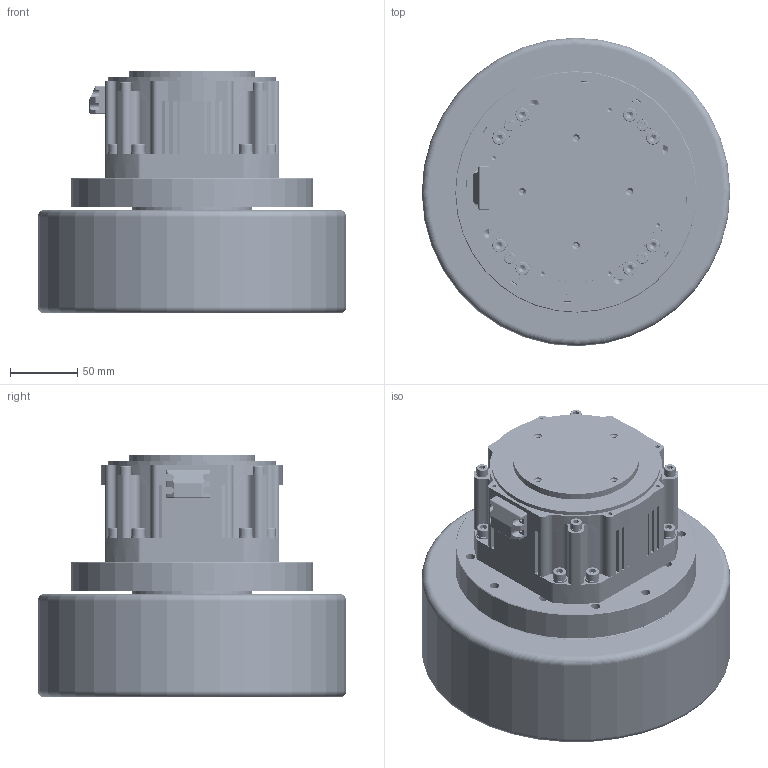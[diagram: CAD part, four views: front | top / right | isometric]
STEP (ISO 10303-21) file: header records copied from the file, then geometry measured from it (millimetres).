
FILE_DESCRIPTION(/* description */ (''),/* implementation_level */ '2;1');
FILE_NAME(/* name */ '',/* time_stamp */ '2024-05-06T22:28:17+08:00',/* author */ ('WSZ'),/* organization */ (''),/* preprocessor_version */ 'ST-DEVELOPER v19.2',/* originating_system */ 'Autodesk Inventor 2023',/* authorisation */ '');
FILE_SCHEMA (('AUTOMOTIVE_DESIGN { 1 0 10303 214 3 1 1 }'));
Length unit declared in the file: millimetre
Products named in the file (12): 1.5KW180mm驱动轮电机; 机壳1000W（鸣志常州1500
W安装脚)240422; 130定子铁芯51mm; 1500kw130后端盖240425（鸣志常州）; Washer GB/T 9074.26-1988 6; AS 1420 - 1973 - M6 x 25; AS 1420 - 1973 - M5 x 10; Washer GB/T 9074.26-1988 5; AGV3D_-0425; 编码器盖板240428; 线夹（鸣志常州）; AEQ-145-L2-15-22-1-H77-W230
Assembly tree (31 placements, depth 2):
  1.5KW180mm驱动轮电机
    机壳1000W（鸣志常州1500
W安装脚)240422
    130定子铁芯51mm
    1500kw130后端盖240425（鸣志常州）
    Washer GB/T 9074.26-1988 6  x8
    AS 1420 - 1973 - M6 x 25  x8
    AS 1420 - 1973 - M5 x 10  x4
    Washer GB/T 9074.26-1988 5  x4
    AGV3D_-0425
    编码器盖板240428
    线夹（鸣志常州）
    AEQ-145-L2-15-22-1-H77-W230
Bounding box: 229.99 x 229.99 x 181 mm (x, y, z)
Volume: 4233933.8 mm3; surface area: 522570.7 mm2
Topology: 116 solids, 116 shells, 4154 faces, 10665 edges, 6928 vertices
Faces by surface type: plane 2274, cylinder 952, cone 676, bspline 158, torus 72, sphere 22
Full cylindrical faces by diameter (mm): 2 x2, 2.459 x4, 2.7 x4, 3.2 x4, 3.242 x5, 5 x12, 5.5 x4, 5.6 x4, 6 x304, 6.5 x8, 6.6 x8, 6.8 x12, 8.5 x4, 10 x16, 11 x8, 22 x2, 30 x1, 39 x1, 47 x2, 55 x1, 62 x1, 77 x1, 82 x1, 85.1 x1, 90 x1, 94 x2, 95 x1, 96 x1, 110 x2, 115 x1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
Entity records: 129499 total; most frequent: CARTESIAN_POINT 31018, DIRECTION 20486, ORIENTED_EDGE 20298, EDGE_CURVE 10149, AXIS2_PLACEMENT_3D 6862, LINE 6762, VECTOR 6762, VERTEX_POINT 6598
